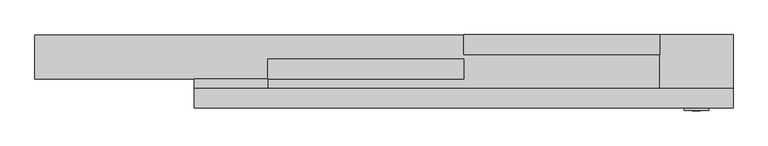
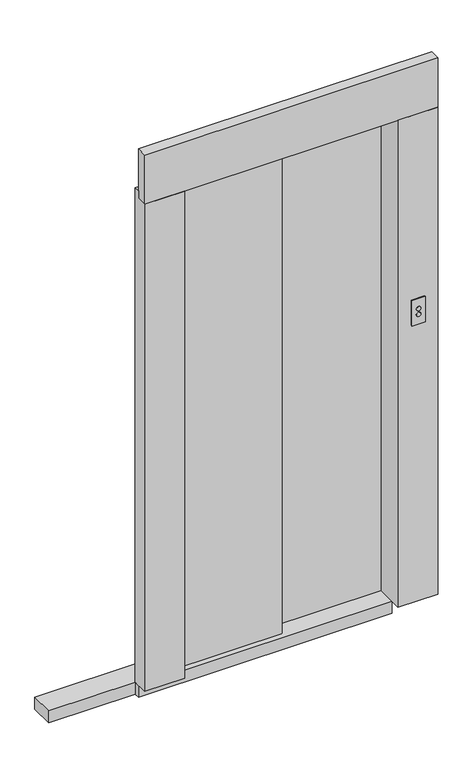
"""IFC4 building model written with IfcOpenShell, lengths in millimetres: proxy geometry, Porta do elevador : Porta do elevador."""

from ifc_helpers import new_model, si_unit, point, frame, frame_2d, origin, origin_with_axes, place, context, project, spatial, polyline, circle_curve, trimmed, segment, composite_curve, outline, extrude, source, transform, mapped, element, save


def specialty_equipment_6c35da8b(model_context):
    return source(origin(), model_context, "Body", "SweptSolid", [
        extrude(outline(composite_curve([segment(trimmed(circle_curve(frame_2d((1138.68, 600.0)), 8.23), [point((1138.68, 591.77))], [point((1138.68, 608.23))], False, "CARTESIAN"), True, "CONTINUOUS"), segment(trimmed(circle_curve(frame_2d((1138.68, 600.0)), 8.23), [point((1138.68, 608.23))], [point((1138.68, 591.77))], False, "CARTESIAN"), True, "CONTINUOUS")], self_intersect=False)), frame((0.0, 29.0, 0.0), z_axis=(0.0, 1.0, 0.0), x_axis=(0.0, 0.0, 1.0)), (0.0, 0.0, 1.0), 6.0),
        extrude(outline(composite_curve([segment(trimmed(circle_curve(frame_2d((1161.32, 600.0)), 8.23), [point((1161.32, 591.77))], [point((1161.32, 608.23))], False, "CARTESIAN"), True, "CONTINUOUS"), segment(trimmed(circle_curve(frame_2d((1161.32, 600.0)), 8.23), [point((1161.32, 608.23))], [point((1161.32, 591.77))], False, "CARTESIAN"), True, "CONTINUOUS")], self_intersect=False)), frame((0.0, 29.0, 0.0), z_axis=(0.0, 1.0, 0.0), x_axis=(0.0, 0.0, 1.0)), (0.0, 0.0, 1.0), 6.0),
        extrude(outline(polyline([(625.0, 30.0), (575.0, 30.0), (575.0, 35.0), (625.0, 35.0), (625.0, 30.0)])), frame((0.0, 0.0, 1100.0), z_axis=(0.0, 0.0, 1.0), x_axis=(1.0, 0.0, 0.0)), (0.0, 0.0, 1.0), 100.0),
        extrude(outline(polyline([(-275.0, 135.0), (125.0, 135.0), (125.0, 95.0), (-275.0, 95.0), (-275.0, 135.0)])), origin_with_axes(), (0.0, 0.0, 1.0), 1960.0),
        extrude(outline(polyline([(525.0, 145.0), (125.0, 145.0), (125.0, 185.0), (525.0, 185.0), (525.0, 145.0)])), origin_with_axes(), (0.0, 0.0, 1.0), 1960.0),
        extrude(outline(polyline([(185.0, 0.0), (35.0, 0.0), (35.0, 1930.0), (75.0, 1930.0), (75.0, 1960.0), (185.0, 1960.0), (185.0, 0.0)])), frame((525.0, 0.0, 0.0), z_axis=(1.0, 0.0, 0.0), x_axis=(0.0, 1.0, 0.0)), (0.0, 0.0, 1.0), 150.0),
        extrude(outline(polyline([(95.0, 0.0), (35.0, 0.0), (35.0, 1930.0), (75.0, 1930.0), (75.0, 1960.0), (95.0, 1960.0), (95.0, 0.0)])), frame((-425.0, 0.0, 0.0), z_axis=(1.0, 0.0, 0.0), x_axis=(0.0, 1.0, 0.0)), (0.0, 0.0, 1.0), 150.0),
        extrude(outline(polyline([(675.0, 35.0), (-425.0, 35.0), (-425.0, 75.0), (675.0, 75.0), (675.0, 35.0)])), frame((0.0, 0.0, 1930.0), z_axis=(0.0, 0.0, 1.0), x_axis=(1.0, 0.0, 0.0)), (0.0, 0.0, 1.0), 195.0),
        extrude(outline(polyline([(-750.0, 95.0), (-750.0, 185.0), (525.0, 185.0), (525.0, 75.0), (-425.0, 75.0), (-425.0, 95.0), (-750.0, 95.0)])), frame((0.0, 0.0, -48.0), z_axis=(0.0, 0.0, 1.0), x_axis=(1.0, 0.0, 0.0)), (0.0, 0.0, 1.0), 48.0),
    ])


if __name__ == "__main__":
    model = new_model("IFC4")
    model_context = context("Model", 3, world=origin())
    ifc_project = project(units=[si_unit("LENGTHUNIT", "METRE", prefix="MILLI")], contexts=[model_context])
    site = spatial("IfcSite", under=ifc_project)
    building = spatial("IfcBuilding", under=site)
    placement = place(None, origin())
    specialty_equipment_shape = specialty_equipment_6c35da8b(model_context)
    element("IfcBuildingElementProxy", 1, Name="Porta do elevador : Porta do elevador", ObjectType="Porta do elevador : Porta do elevador", at=placement, inside=building, context=model_context, shape_type="MappedRepresentation", body=[
        mapped(specialty_equipment_shape, transform((0.0, 0.0, 0.0), x_axis=(1.0, 0.0, 0.0), y_axis=(0.0, 1.0, 0.0), z_axis=(0.0, 0.0, 1.0))),
    ])
    save(model, "model.ifc")
